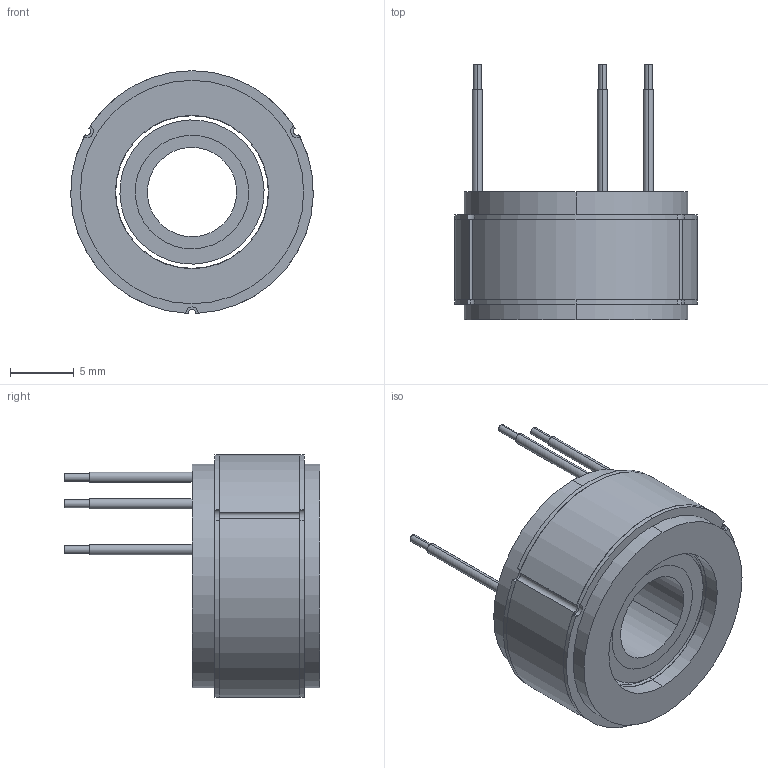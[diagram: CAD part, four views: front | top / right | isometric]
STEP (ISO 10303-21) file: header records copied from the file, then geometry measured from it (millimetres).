
FILE_DESCRIPTION (( 'STEP AP214' ), '1' );
FILE_NAME ('U1910-D0076 无框力矩电机 3D模型.STEP', '2026-08-12T03:02:19', ( 'Windows User' ), ( 'P R C' ), 'SwSTEP 2.0', 'SolidWorks 2023', '' );
FILE_SCHEMA (( 'AUTOMOTIVE_DESIGN' ));
Length unit declared in the file: millimetre
Products named in the file (3): U1910-D0076无框力矩电机 定子 3D模型; U1910-D0076 无框力矩电机 3D模型; U1910-D0076 无框力矩电机 转子 3D模型
Assembly tree (2 placements, depth 2):
  U1910-D0076 无框力矩电机 3D模型
    U1910-D0076无框力矩电机 定子 3D模型
    U1910-D0076 无框力矩电机 转子 3D模型
Bounding box: 19 x 20 x 19 mm (x, y, z)
Volume: 2018.9 mm3; surface area: 3489.8 mm2
Topology: 10 solids, 10 shells, 80 faces, 171 edges, 114 vertices
Faces by surface type: cylinder 57, plane 23
Entity records: 2417 total; most frequent: DIRECTION 455, CARTESIAN_POINT 370, ORIENTED_EDGE 342, AXIS2_PLACEMENT_3D 199, EDGE_CURVE 171, VERTEX_POINT 114, CIRCLE 114, EDGE_LOOP 97
